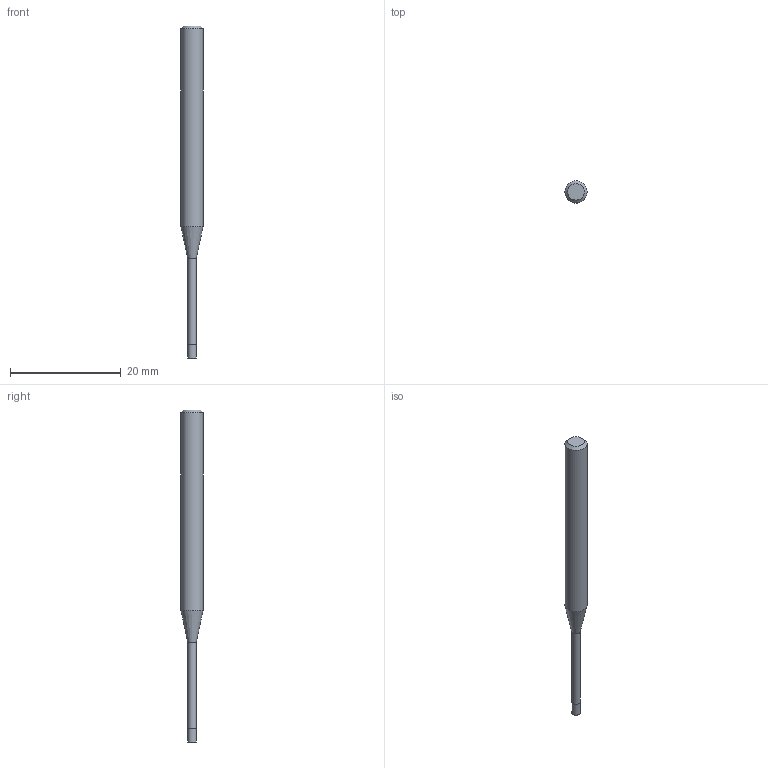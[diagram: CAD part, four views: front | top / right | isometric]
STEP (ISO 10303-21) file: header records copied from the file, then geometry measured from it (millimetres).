
FILE_DESCRIPTION((''),'2;1');
FILE_NAME('C:\Users\nsx150\AppData\Local\Temp\Mastercam 2021\17T8Q8S9EB\TEMP.step','2021-04-21T16:15:08',(''),(''),'STEP Write','Mastercam 2021 ... CNC Software, Inc.','');
FILE_SCHEMA(('AUTOMOTIVE_DESIGN'));
Length unit declared in the file: millimetre
Products named in the file (1): None
Bounding box: 4 x 4 x 60 mm (x, y, z)
Volume: 525.3 mm3; surface area: 609.2 mm2
Topology: 2 solids, 2 shells, 9 faces, 12 edges, 7 vertices
Faces by surface type: plane 4, cylinder 3, cone 2
Full cylindrical faces by diameter (mm): 1.55 x1, 1.6 x1, 4 x1
Entity records: 211 total; most frequent: DIRECTION 36, CARTESIAN_POINT 25, AXIS2_PLACEMENT_3D 18, ORIENTED_EDGE 14, EDGE_LOOP 14, STYLED_ITEM 12, ADVANCED_FACE 9, FACE_BOUND 8
